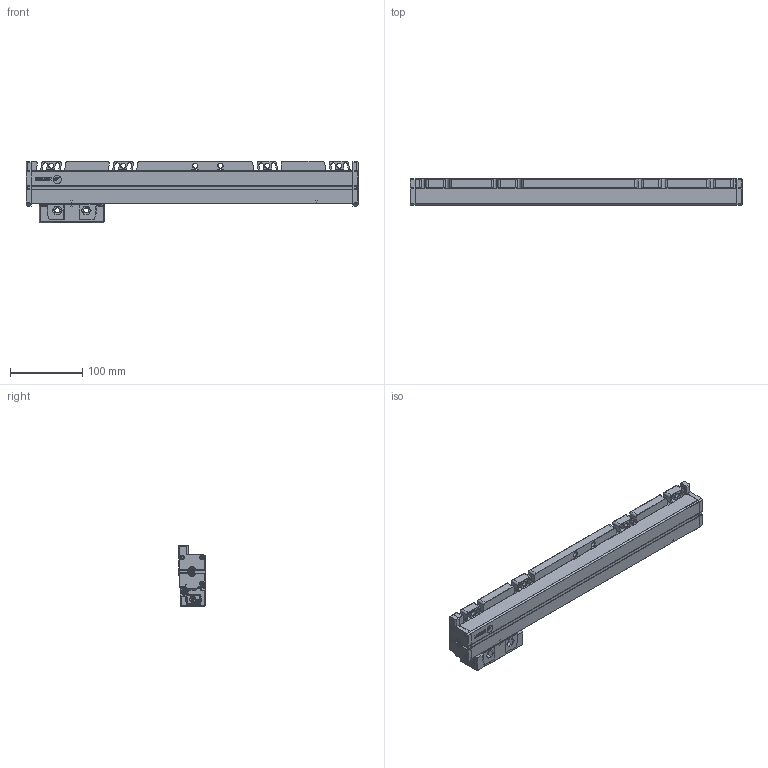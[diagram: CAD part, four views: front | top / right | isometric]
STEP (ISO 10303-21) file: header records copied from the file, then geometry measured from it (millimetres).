
FILE_DESCRIPTION(('Creo Elements/Direct Modeling STEP Export'),'2;1');
FILE_NAME('REGLA_G3-340.stp','2019-05-31T10:54:35',(''),(''),'Creo Elements/Direct Modeling STEP processor for AP214 (Solid Model)','Creo Elements/Direct Modeling 19.0G 27-Nov-2017 (C) Parametric Technology GmbH','');
FILE_SCHEMA(('AUTOMOTIVE_DESIGN { 1 0 10303 214 1 1 1 1 }'));
Length unit declared in the file: millimetre
Products named in the file (3): CABEZA_ROSCADA_M8_G3; REGLA_G3-340
Assembly tree (2 placements, depth 2):
  REGLA_G3-340
    REGLA_G3-340
    CABEZA_ROSCADA_M8_G3
Bounding box: 461 x 37 x 85 mm (x, y, z)
Volume: 809021.1 mm3; surface area: 126611.1 mm2
Topology: 2 solids, 23 shells, 1476 faces, 4085 edges, 2653 vertices
Faces by surface type: plane 727, cylinder 517, cone 172, torus 30, bspline 30
Entity records: 60686 total; most frequent: CARTESIAN_POINT 17847, ORIENTED_EDGE 8126, DIRECTION 6958, EDGE_CURVE 4047, VERTEX_POINT 2653, AXIS2_PLACEMENT_3D 2390, VECTOR 2178, LINE 2178
